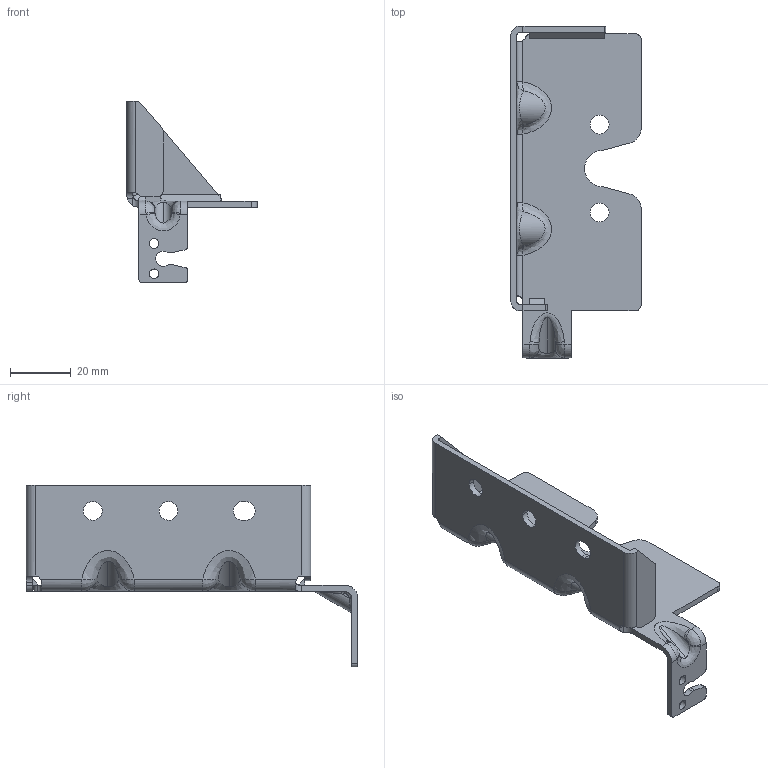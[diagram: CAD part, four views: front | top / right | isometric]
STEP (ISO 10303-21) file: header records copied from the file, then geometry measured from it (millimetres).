
FILE_DESCRIPTION(('CATIA V5 STEP Exchange'),'2;1');
FILE_NAME('C:\Users\Administrator\Desktop\SHT0015980.stp','2024-09-12T06:34:14+00:00',('none'),('none'),'CATIA Version 5 Release 20 GA (IN-10)','CATIA V5 STEP AP214','none');
FILE_SCHEMA(('AUTOMOTIVE_DESIGN { 1 0 10303 214 1 1 1 1 }'));
Length unit declared in the file: millimetre
Products named in the file (1): Part74
Bounding box: 43 x 109.5 x 60 mm (x, y, z)
Volume: 15627.9 mm3; surface area: 17078.6 mm2
Topology: 3 solids, 3 shells, 147 faces, 391 edges, 243 vertices
Faces by surface type: cylinder 67, plane 51, bspline 28, sphere 1
Entity records: 8528 total; most frequent: CARTESIAN_POINT 5247, ORIENTED_EDGE 768, DIRECTION 479, EDGE_CURVE 384, VERTEX_POINT 243, VECTOR 189, LINE 189, AXIS2_PLACEMENT_3D 185
